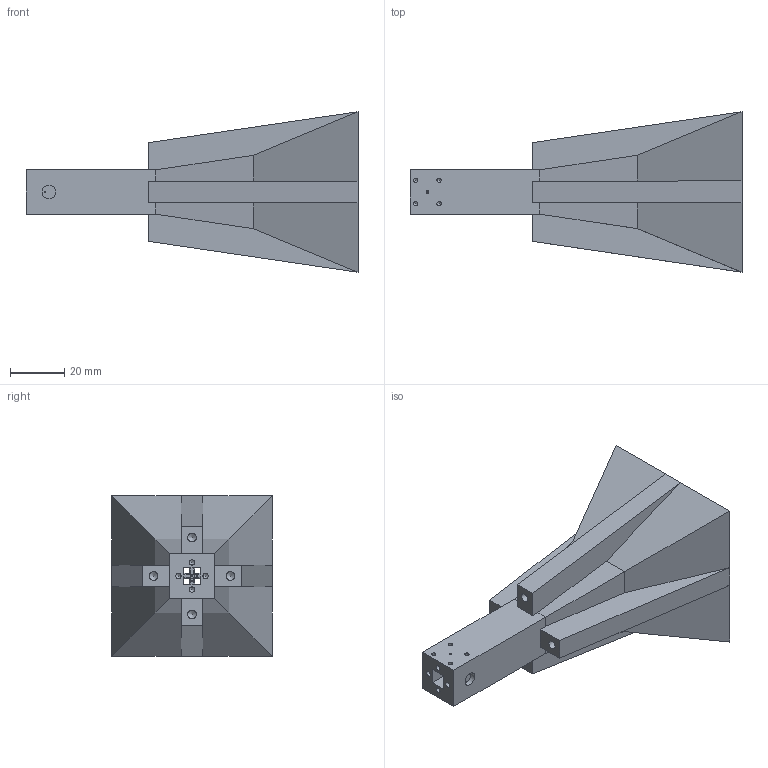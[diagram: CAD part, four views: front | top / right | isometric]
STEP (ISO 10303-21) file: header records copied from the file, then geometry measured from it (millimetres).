
FILE_DESCRIPTION(('STEP AP242'), '1');
FILE_NAME('ÑÈØÊ.757847.037 - Ðóïîð', '', ('UNSPECIFIED'), ('UNSPECIFIED'), 'C3D Converter', 'C3D Toolkit', '');
FILE_SCHEMA(('AP242_MANAGED_MODEL_BASED_3D_ENGINEERING_MIM_LF { 1 0 10303 442 1 1 4 }'));
Length unit declared in the file: millimetre
Products named in the file (1): СИШК.757847.037
Bounding box: 122.1 x 59 x 59 mm (x, y, z)
Volume: 45248.9 mm3; surface area: 31361.5 mm2
Topology: 1 solids, 1 shells, 158 faces, 427 edges, 266 vertices
Faces by surface type: plane 80, cylinder 38, bspline 24, cone 16
Full cylindrical faces by diameter (mm): 0.5 x4, 1 x4, 1.567 x8, 2.013 x4, 3.242 x4, 5 x2
Entity records: 13839 total; most frequent: CARTESIAN_POINT 9117, ORIENTED_EDGE 732, DIRECTION 586, EDGE_CURVE 366, VERTEX_POINT 250, EDGE_LOOP 216, LINE 198, VECTOR 198
